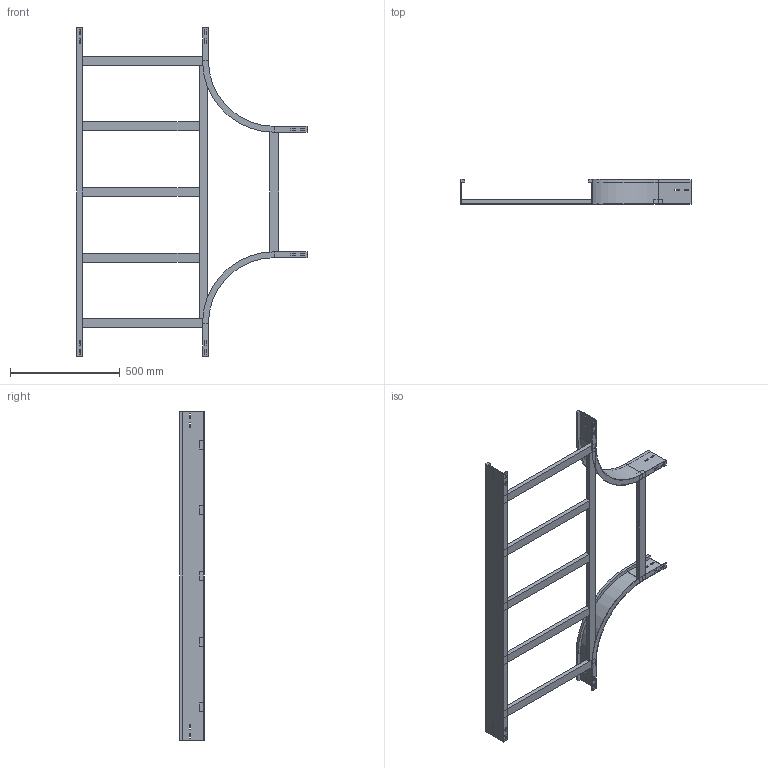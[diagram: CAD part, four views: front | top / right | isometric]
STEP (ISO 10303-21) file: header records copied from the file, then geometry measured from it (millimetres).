
FILE_DESCRIPTION (( 'STEP AP214' ), '1' );
FILE_NAME ('A2_15B3J600.step', '2025-02-21T15:51:36', ( '' ), ( '' ), 'SwSTEP 2.0', 'SolidWorks 2023', '' );
FILE_SCHEMA (( 'AUTOMOTIVE_DESIGN' ));
Length unit declared in the file: millimetre
Products named in the file (6): A2_LONGH.INTERNO 90°_H112.5_R300; A2_15B3J600; A2_LONGH.RETT_H112.5_R300+600; A2_TRAVERSINO_LONG._R300+600; TRAVERSINO_INTERMEDIO_R300+600; TRAVERSINO_600
Assembly tree (10 placements, depth 2):
  A2_15B3J600
    A2_LONGH.INTERNO 90°_H112.5_R300  x2
    A2_LONGH.RETT_H112.5_R300+600
    TRAVERSINO_600  x3
    A2_TRAVERSINO_LONG._R300+600
    TRAVERSINO_INTERMEDIO_R300+600  x3
Bounding box: 1050 x 112.5 x 1500 mm (x, y, z)
Volume: 5159801.5 mm3; surface area: 1518801.2 mm2
Topology: 10 solids, 10 shells, 200 faces, 508 edges, 328 vertices
Faces by surface type: plane 192, cylinder 8
Entity records: 3823 total; most frequent: CARTESIAN_POINT 639, ORIENTED_EDGE 616, DIRECTION 578, EDGE_CURVE 308, VECTOR 300, LINE 300, VERTEX_POINT 200, EDGE_LOOP 150
